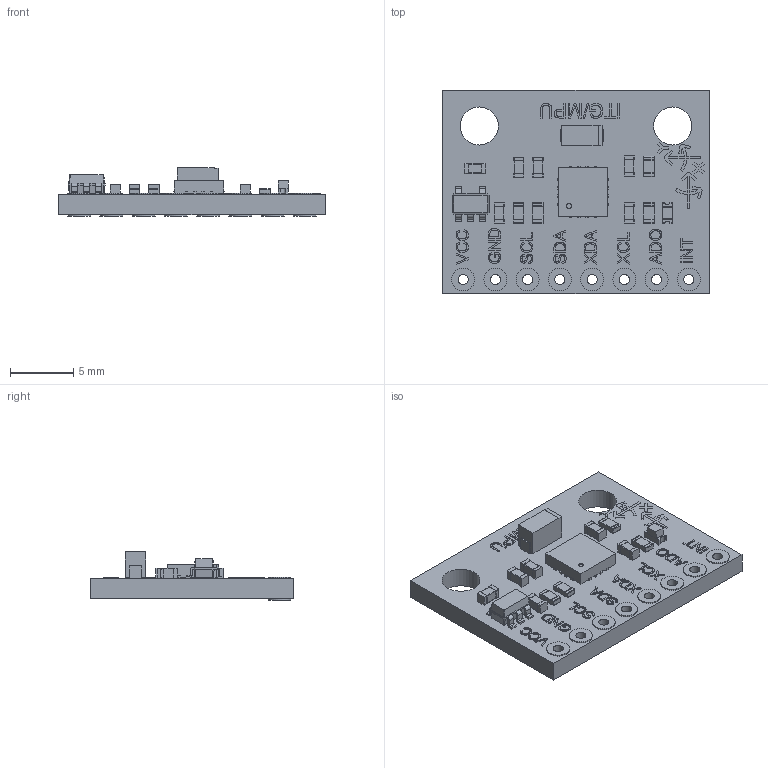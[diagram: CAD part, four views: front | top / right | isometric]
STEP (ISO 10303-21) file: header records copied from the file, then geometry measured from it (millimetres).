
FILE_DESCRIPTION(('FreeCAD Model'),'2;1');
FILE_NAME('Open CASCADE Shape Model','2024-11-22T21:16:27',(''),(''), 'Open CASCADE STEP processor 7.6','FreeCAD','Unknown');
FILE_SCHEMA(('AUTOMOTIVE_DESIGN { 1 0 10303 214 1 1 1 1 }'));
Length unit declared in the file: millimetre
Products named in the file (39): GY_521_MPU6050; PCB; trou1; trou002; trou003; trou004; trou005; trou006; trou007; trou008; Text_X; Symb_Y; Symb_X; Text_Y; Text_VCC; Text_GND; Text_SCL; Text_SDA; Text_XDA; Text_XCL; Text_ADO; Text_INT; R_0603_1608Metric; R_0603_1608Metric001; R_0603_1608Metric002; R_0603_1608Metric003; C_0603_1608Metric; C_0603_1608Metric001; C_0603_1608Metric002; C_0603_1608Metric003; Corps002; Corps001 (Mirror #1); C_0603_1608Metric004; C_0603_1608Metric005; LED_0603_1608Metric_Castellated; QFN_16_1EP_4x4mm_P065mm_EP21x21mm; Text_ITGMPU; SOT_23_5; Corps001
Assembly tree (38 placements, depth 2):
  GY_521_MPU6050
    PCB
    trou1
    trou002
    trou003
    trou004
    trou005
    trou006
    trou007
    trou008
    Text_X
    Symb_Y
    Symb_X
    Text_Y
    Text_VCC
    Text_GND
    Text_SCL
    Text_SDA
    Text_XDA
    Text_XCL
    Text_ADO
    Text_INT
    R_0603_1608Metric
    R_0603_1608Metric001
    R_0603_1608Metric002
    R_0603_1608Metric003
    C_0603_1608Metric
    C_0603_1608Metric001
    C_0603_1608Metric002
    C_0603_1608Metric003
    Corps002
    Corps001 (Mirror #1)
    C_0603_1608Metric004
    C_0603_1608Metric005
    LED_0603_1608Metric_Castellated
    QFN_16_1EP_4x4mm_P065mm_EP21x21mm
    Text_ITGMPU
    SOT_23_5
    Corps001
Bounding box: 21 x 16 x 3.8 mm (x, y, z)
Volume: 555.5 mm3; surface area: 1192.4 mm2
Topology: 60 solids, 60 shells, 1287 faces, 3344 edges, 2208 vertices
Faces by surface type: plane 753, extrusion 316, cylinder 189, bspline 29
Full cylindrical faces by diameter (mm): 0.4 x1, 0.8 x8, 1 x16, 1.8 x16, 3 x2
Entity records: 88834 total; most frequent: CARTESIAN_POINT 18568, DIRECTION 11040, VECTOR 8105, LINE 7789, ORIENTED_EDGE 6688, PCURVE 6688, DEFINITIONAL_REPRESENTATION 6688, EDGE_CURVE 3344
